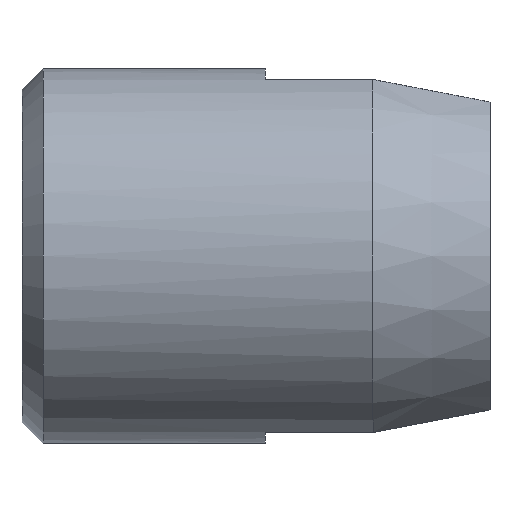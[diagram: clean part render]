
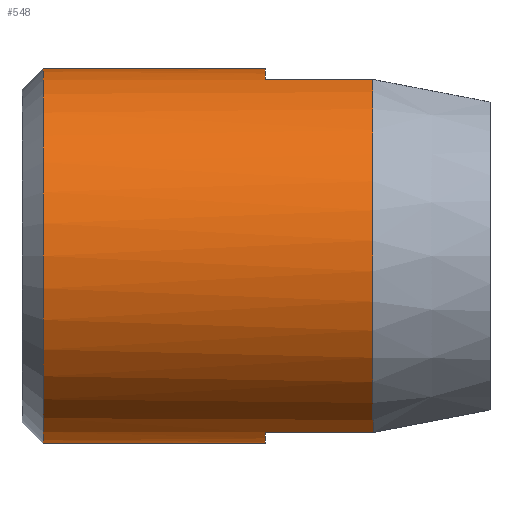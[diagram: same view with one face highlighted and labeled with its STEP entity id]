
A CAD part, front view. The second image highlights one B-rep face of the part: STEP entity #548.
In plain terms, the highlighted cylindrical face has radius 6 mm (diameter 12 mm), a partial arc.
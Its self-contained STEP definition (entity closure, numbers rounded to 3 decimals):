
#6 = CARTESIAN_POINT ( 'NONE',  ( 21.562, 0., -6. ) ) ;
#16 = DIRECTION ( 'NONE',  ( 1., 0., 0. ) ) ;
#29 = CARTESIAN_POINT ( 'NONE',  ( -7.2, 0., 0. ) ) ;
#38 = ORIENTED_EDGE ( 'NONE', *, *, #577, .F. ) ;
#39 = DIRECTION ( 'NONE',  ( 1., 0., 0. ) ) ;
#44 = CARTESIAN_POINT ( 'NONE',  ( -3.75, -2., -5.657 ) ) ;
#46 = VERTEX_POINT ( 'NONE', #435 ) ;
#49 = ORIENTED_EDGE ( 'NONE', *, *, #226, .F. ) ;
#51 = LINE ( 'NONE', #290, #88 ) ;
#53 = AXIS2_PLACEMENT_3D ( 'NONE', #562, #39, #502 ) ;
#58 = CARTESIAN_POINT ( 'NONE',  ( -7.2, 0., 6. ) ) ;
#77 = CARTESIAN_POINT ( 'NONE',  ( -7.2, -2., 5.657 ) ) ;
#88 = VECTOR ( 'NONE', #245, 1000. ) ;
#96 = DIRECTION ( 'NONE',  ( 1., 0., 0. ) ) ;
#101 = AXIS2_PLACEMENT_3D ( 'NONE', #408, #105, #754 ) ;
#105 = DIRECTION ( 'NONE',  ( 1., 0., 0. ) ) ;
#108 = CIRCLE ( 'NONE', #305, 6. ) ;
#114 = CIRCLE ( 'NONE', #204, 6. ) ;
#121 = EDGE_CURVE ( 'NONE', #46, #330, #108, .T. ) ;
#140 = VECTOR ( 'NONE', #478, 1000. ) ;
#147 = CARTESIAN_POINT ( 'NONE',  ( -7.2, -2., -5.657 ) ) ;
#157 = CARTESIAN_POINT ( 'NONE',  ( 21.562, -2., 5.657 ) ) ;
#166 = ORIENTED_EDGE ( 'NONE', *, *, #288, .F. ) ;
#204 = AXIS2_PLACEMENT_3D ( 'NONE', #29, #96, #505 ) ;
#207 = ORIENTED_EDGE ( 'NONE', *, *, #469, .F. ) ;
#226 = EDGE_CURVE ( 'NONE', #547, #695, #114, .T. ) ;
#235 = ORIENTED_EDGE ( 'NONE', *, *, #302, .F. ) ;
#244 = ORIENTED_EDGE ( 'NONE', *, *, #423, .F. ) ;
#245 = DIRECTION ( 'NONE',  ( 1., 0., 0. ) ) ;
#247 = DIRECTION ( 'NONE',  ( 1., 0., 0. ) ) ;
#252 = CIRCLE ( 'NONE', #53, 6. ) ;
#287 = CARTESIAN_POINT ( 'NONE',  ( 21.562, 0., 0. ) ) ;
#288 = EDGE_CURVE ( 'NONE', #598, #346, #252, .T. ) ;
#290 = CARTESIAN_POINT ( 'NONE',  ( 21.562, 0., 6. ) ) ;
#297 = DIRECTION ( 'NONE',  ( 0., 0., -1. ) ) ;
#302 = EDGE_CURVE ( 'NONE', #639, #392, #576, .T. ) ;
#305 = AXIS2_PLACEMENT_3D ( 'NONE', #536, #16, #493 ) ;
#325 = ORIENTED_EDGE ( 'NONE', *, *, #572, .T. ) ;
#330 = VERTEX_POINT ( 'NONE', #349 ) ;
#339 = LINE ( 'NONE', #157, #694 ) ;
#346 = VERTEX_POINT ( 'NONE', #411 ) ;
#347 = AXIS2_PLACEMENT_3D ( 'NONE', #287, #518, #297 ) ;
#349 = CARTESIAN_POINT ( 'NONE',  ( -14.325, 0., -6. ) ) ;
#392 = VERTEX_POINT ( 'NONE', #44 ) ;
#408 = CARTESIAN_POINT ( 'NONE',  ( -3.75, 0., 0. ) ) ;
#410 = FACE_OUTER_BOUND ( 'NONE', #742, .T. ) ;
#411 = CARTESIAN_POINT ( 'NONE',  ( -7.2, 0., -6. ) ) ;
#420 = LINE ( 'NONE', #441, #140 ) ;
#423 = EDGE_CURVE ( 'NONE', #695, #639, #339, .T. ) ;
#435 = CARTESIAN_POINT ( 'NONE',  ( -14.325, 0., 6. ) ) ;
#441 = CARTESIAN_POINT ( 'NONE',  ( 21.562, -2., -5.657 ) ) ;
#469 = EDGE_CURVE ( 'NONE', #46, #547, #51, .T. ) ;
#470 = VECTOR ( 'NONE', #247, 1000. ) ;
#478 = DIRECTION ( 'NONE',  ( -1., 0., 0. ) ) ;
#493 = DIRECTION ( 'NONE',  ( 0., 0., 1. ) ) ;
#502 = DIRECTION ( 'NONE',  ( 0., 0., 1. ) ) ;
#505 = DIRECTION ( 'NONE',  ( 0., 0., 1. ) ) ;
#518 = DIRECTION ( 'NONE',  ( 1., 0., 0. ) ) ;
#529 = LINE ( 'NONE', #6, #470 ) ;
#536 = CARTESIAN_POINT ( 'NONE',  ( -14.325, 0., 0. ) ) ;
#547 = VERTEX_POINT ( 'NONE', #58 ) ;
#548 = ADVANCED_FACE ( 'NONE', ( #410 ), #593, .T. ) ;
#562 = CARTESIAN_POINT ( 'NONE',  ( -7.2, 0., 0. ) ) ;
#572 = EDGE_CURVE ( 'NONE', #330, #346, #529, .T. ) ;
#576 = CIRCLE ( 'NONE', #101, 6. ) ;
#577 = EDGE_CURVE ( 'NONE', #392, #598, #420, .T. ) ;
#592 = ORIENTED_EDGE ( 'NONE', *, *, #121, .T. ) ;
#593 = CYLINDRICAL_SURFACE ( 'NONE', #347, 6. ) ;
#598 = VERTEX_POINT ( 'NONE', #147 ) ;
#619 = DIRECTION ( 'NONE',  ( 1., 0., 0. ) ) ;
#639 = VERTEX_POINT ( 'NONE', #660 ) ;
#660 = CARTESIAN_POINT ( 'NONE',  ( -3.75, -2., 5.657 ) ) ;
#694 = VECTOR ( 'NONE', #619, 1000. ) ;
#695 = VERTEX_POINT ( 'NONE', #77 ) ;
#742 = EDGE_LOOP ( 'NONE', ( #207, #592, #325, #166, #38, #235, #244, #49 ) ) ;
#754 = DIRECTION ( 'NONE',  ( 0., 0., -1. ) ) ;
